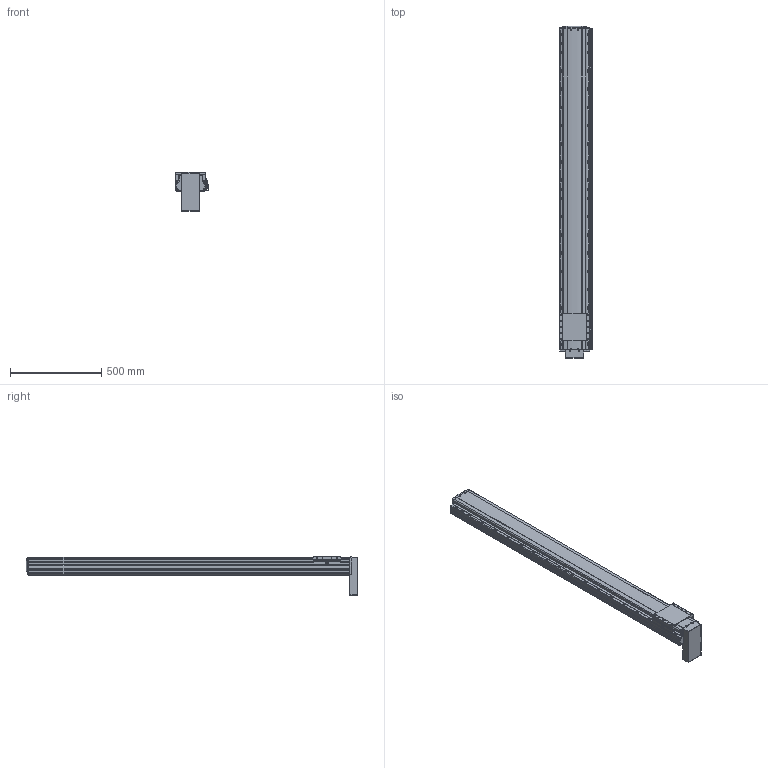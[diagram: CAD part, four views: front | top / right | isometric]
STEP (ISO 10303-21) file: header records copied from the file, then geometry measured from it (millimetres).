
FILE_DESCRIPTION(('STEP AP214'),'1');
FILE_NAME('Z:/Web/3D/PSA165/STP/PSA165-1500 (3D)/PSA165ㅁㅁ-1500PB+3SR.stp','2014-06-24T10:58:10',(' '),(' '),'Spatial InterOp 3D',' ',' ');
FILE_SCHEMA(('automotive_design'));
Length unit declared in the file: millimetre
Products named in the file (47): 스크루 : Round - M4.0 x 12.0; RRCV-PA160; BASE; 스크루 : Round - M4.0 x 10.0; RN15; Screw 20; SLIDE; FRCV; MTPL CV- PB; 스크루 : Round - M3.0 x 6.0; 1; 2; M3.0 x 6.0; SRL-16x17-360L; SGD-SAN150; EE-SX674; SBK-SX674-352; BHCS M4.0 x 10.0
Bounding box: 181 x 1820.8 x 215.96 mm (x, y, z)
Volume: 25396976 mm3; surface area: 1698843.4 mm2
Topology: 47 solids, 47 shells, 2852 faces, 7620 edges, 4876 vertices
Faces by surface type: plane 1565, cylinder 904, cone 270, sphere 72, bspline 25, torus 16
Entity records: 115551 total; most frequent: CARTESIAN_POINT 19985, DIRECTION 15263, ORIENTED_EDGE 14884, EDGE_CURVE 7442, AXIS2_PLACEMENT_3D 5214, VERTEX_POINT 4876, LINE 4835, VECTOR 4835
